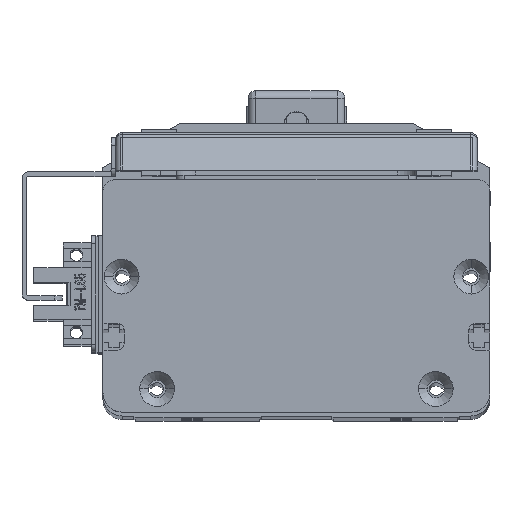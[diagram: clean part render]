
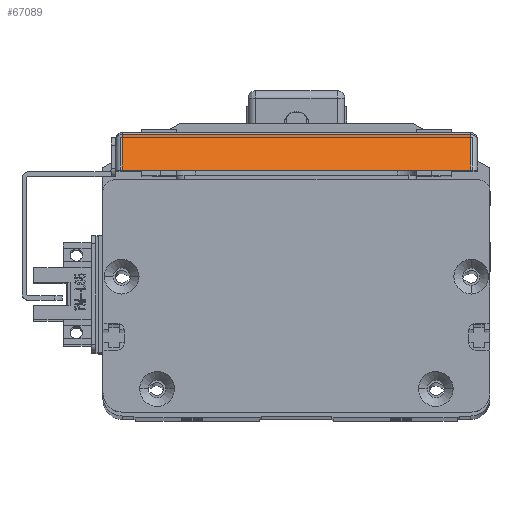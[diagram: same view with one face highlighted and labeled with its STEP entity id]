
A CAD part, top view. The second image highlights one B-rep face of the part: STEP entity #67089.
In plain terms, the highlighted planar face has unit normal (0, 0.707, 0.707) as drawn and (-0.707, 0, -0.707) by its records, which use the part's own axes.
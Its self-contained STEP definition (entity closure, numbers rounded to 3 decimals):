
#1352 = LINE ( 'NONE', #4493, #58604 ) ;
#3283 = DIRECTION ( 'NONE',  ( 0.707, 0., -0.707 ) ) ;
#4493 = CARTESIAN_POINT ( 'NONE',  ( -57.298, 93.4, -5.102 ) ) ;
#9234 = VERTEX_POINT ( 'NONE', #37739 ) ;
#9687 = EDGE_CURVE ( 'NONE', #20628, #20167, #1352, .T. ) ;
#9854 = DIRECTION ( 'NONE',  ( -0.707, 0., 0.707 ) ) ;
#10101 = EDGE_CURVE ( 'NONE', #9234, #20628, #51997, .T. ) ;
#10394 = DIRECTION ( 'NONE',  ( 0., -1., 0. ) ) ;
#12901 = ORIENTED_EDGE ( 'NONE', *, *, #56232, .T. ) ;
#17579 = VECTOR ( 'NONE', #3283, 1000. ) ;
#18716 = ORIENTED_EDGE ( 'NONE', *, *, #9687, .T. ) ;
#20167 = VERTEX_POINT ( 'NONE', #27207 ) ;
#20628 = VERTEX_POINT ( 'NONE', #43385 ) ;
#21126 = DIRECTION ( 'NONE',  ( -0.707, 0., 0.707 ) ) ;
#21804 = AXIS2_PLACEMENT_3D ( 'NONE', #52275, #41574, #21126 ) ;
#24212 = VERTEX_POINT ( 'NONE', #43442 ) ;
#27207 = CARTESIAN_POINT ( 'NONE',  ( -57.298, 1.7, -5.102 ) ) ;
#31000 = ORIENTED_EDGE ( 'NONE', *, *, #58155, .T. ) ;
#37443 = CARTESIAN_POINT ( 'NONE',  ( -66.5, 93.4, 4.1 ) ) ;
#37739 = CARTESIAN_POINT ( 'NONE',  ( -66.5, 91.7, 4.1 ) ) ;
#38316 = VECTOR ( 'NONE', #9854, 1000. ) ;
#41574 = DIRECTION ( 'NONE',  ( -0.707, 0., -0.707 ) ) ;
#41894 = FACE_OUTER_BOUND ( 'NONE', #55354, .T. ) ;
#42139 = CARTESIAN_POINT ( 'NONE',  ( -68., 1.7, 5.6 ) ) ;
#43385 = CARTESIAN_POINT ( 'NONE',  ( -57.298, 91.7, -5.102 ) ) ;
#43442 = CARTESIAN_POINT ( 'NONE',  ( -66.5, 1.7, 4.1 ) ) ;
#48381 = DIRECTION ( 'NONE',  ( 0., 1., 0. ) ) ;
#51047 = VECTOR ( 'NONE', #48381, 1000. ) ;
#51997 = LINE ( 'NONE', #60609, #17579 ) ;
#52183 = LINE ( 'NONE', #42139, #38316 ) ;
#52275 = CARTESIAN_POINT ( 'NONE',  ( -68., 93.4, 5.6 ) ) ;
#52713 = LINE ( 'NONE', #37443, #51047 ) ;
#55354 = EDGE_LOOP ( 'NONE', ( #12901, #31000, #60181, #18716 ) ) ;
#56232 = EDGE_CURVE ( 'NONE', #20167, #24212, #52183, .T. ) ;
#58155 = EDGE_CURVE ( 'NONE', #24212, #9234, #52713, .T. ) ;
#58604 = VECTOR ( 'NONE', #10394, 1000. ) ;
#60181 = ORIENTED_EDGE ( 'NONE', *, *, #10101, .T. ) ;
#60609 = CARTESIAN_POINT ( 'NONE',  ( -68., 91.7, 5.6 ) ) ;
#61596 = PLANE ( 'NONE',  #21804 ) ;
#67089 = ADVANCED_FACE ( 'NONE', ( #41894 ), #61596, .T. ) ;
